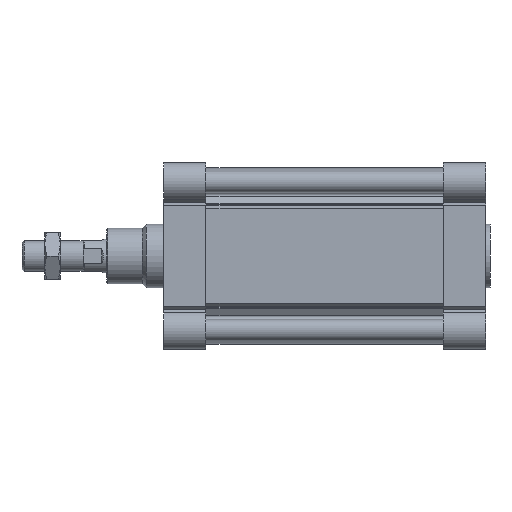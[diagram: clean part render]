
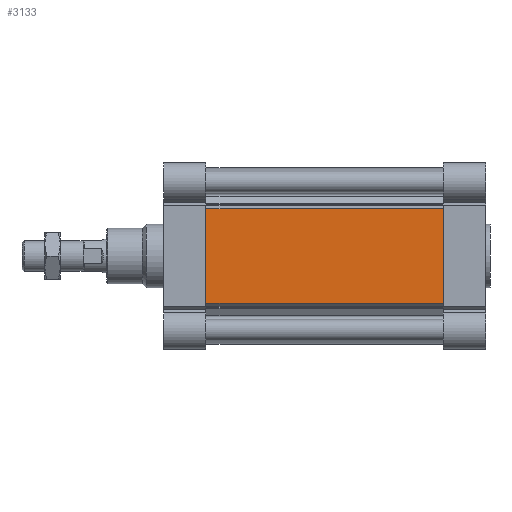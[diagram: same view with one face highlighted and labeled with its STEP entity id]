
A CAD part, front view. The second image highlights one B-rep face of the part: STEP entity #3133.
In plain terms, the highlighted planar face has unit normal (0, -1, 0).
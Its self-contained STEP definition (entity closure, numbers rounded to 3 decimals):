
#6 = CARTESIAN_POINT ( 'NONE',  ( 50., -104., 55.691 ) ) ;
#1179 = LINE ( 'NONE', #6, #14990 ) ;
#2071 = CARTESIAN_POINT ( 'NONE',  ( 330., -104., 55.691 ) ) ;
#2794 = EDGE_CURVE ( 'NONE', #5551, #8451, #1179, .T. ) ;
#3133 = ADVANCED_FACE ( 'NONE', ( #9421 ), #10503, .F. ) ;
#3588 = CARTESIAN_POINT ( 'NONE',  ( 330., -104., 55.691 ) ) ;
#3832 = CARTESIAN_POINT ( 'NONE',  ( 330., -104., 55.691 ) ) ;
#4262 = EDGE_CURVE ( 'NONE', #10523, #8451, #8952, .T. ) ;
#5221 = LINE ( 'NONE', #3832, #7753 ) ;
#5509 = DIRECTION ( 'NONE',  ( 0., 0., -1. ) ) ;
#5551 = VERTEX_POINT ( 'NONE', #8071 ) ;
#6147 = ORIENTED_EDGE ( 'NONE', *, *, #15148, .F. ) ;
#6175 = VECTOR ( 'NONE', #5509, 1000. ) ;
#6342 = VERTEX_POINT ( 'NONE', #2071 ) ;
#6721 = CARTESIAN_POINT ( 'NONE',  ( 330., -104., -55.691 ) ) ;
#6935 = DIRECTION ( 'NONE',  ( -1., 0., 0. ) ) ;
#7753 = VECTOR ( 'NONE', #12210, 1000. ) ;
#8036 = CARTESIAN_POINT ( 'NONE',  ( 330., -104., 55.691 ) ) ;
#8071 = CARTESIAN_POINT ( 'NONE',  ( 50., -104., 55.691 ) ) ;
#8180 = ORIENTED_EDGE ( 'NONE', *, *, #4262, .F. ) ;
#8451 = VERTEX_POINT ( 'NONE', #10904 ) ;
#8952 = LINE ( 'NONE', #6721, #12362 ) ;
#9421 = FACE_OUTER_BOUND ( 'NONE', #14007, .T. ) ;
#10503 = PLANE ( 'NONE',  #14517 ) ;
#10523 = VERTEX_POINT ( 'NONE', #13402 ) ;
#10904 = CARTESIAN_POINT ( 'NONE',  ( 50., -104., -55.691 ) ) ;
#11869 = DIRECTION ( 'NONE',  ( 0., 1., 0. ) ) ;
#12210 = DIRECTION ( 'NONE',  ( -1., 0., 0. ) ) ;
#12362 = VECTOR ( 'NONE', #6935, 1000. ) ;
#12641 = LINE ( 'NONE', #8036, #6175 ) ;
#12644 = ORIENTED_EDGE ( 'NONE', *, *, #2794, .T. ) ;
#13402 = CARTESIAN_POINT ( 'NONE',  ( 330., -104., -55.691 ) ) ;
#13693 = EDGE_CURVE ( 'NONE', #6342, #5551, #5221, .T. ) ;
#14007 = EDGE_LOOP ( 'NONE', ( #12644, #8180, #6147, #15072 ) ) ;
#14248 = DIRECTION ( 'NONE',  ( 1., 0., 0. ) ) ;
#14517 = AXIS2_PLACEMENT_3D ( 'NONE', #3588, #11869, #14248 ) ;
#14990 = VECTOR ( 'NONE', #15142, 1000. ) ;
#15072 = ORIENTED_EDGE ( 'NONE', *, *, #13693, .T. ) ;
#15142 = DIRECTION ( 'NONE',  ( 0., 0., -1. ) ) ;
#15148 = EDGE_CURVE ( 'NONE', #6342, #10523, #12641, .T. ) ;
